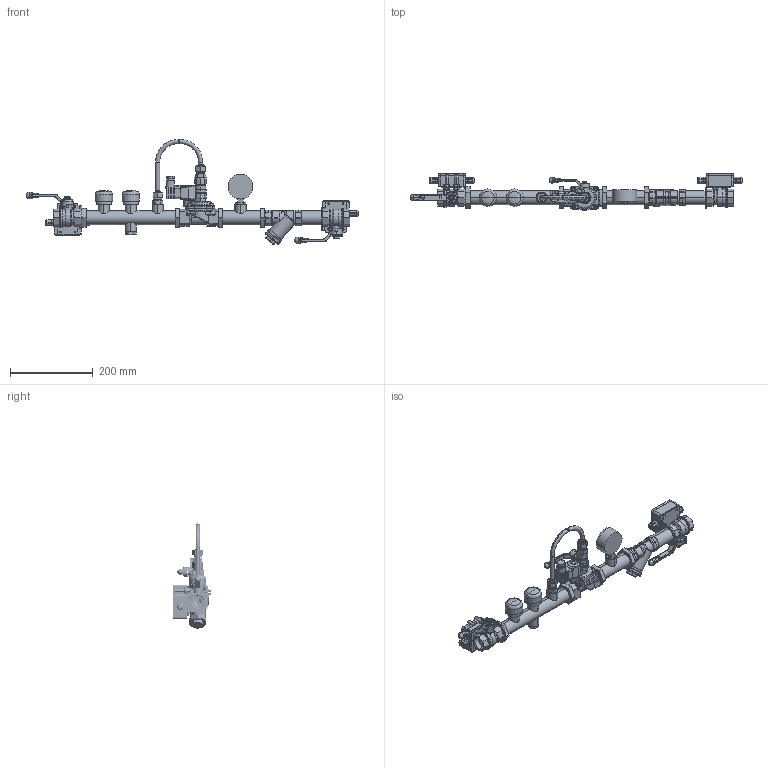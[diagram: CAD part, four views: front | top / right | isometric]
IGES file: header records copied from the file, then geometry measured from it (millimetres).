
Start section: File generated by T-FLEX CAD Version (null)
Global section: file name:                  DN 25 3D.igs; native system: T-FLEX CAD; date: 211014.091830; units: millimetre
Bounding box: 801.86 x 89.5 x 254.06 mm (x, y, z)
Volume: 946560.8 mm3; surface area: 459023.1 mm2
Topology: 110 solids, 126 shells, 4412 faces, 11021 edges, 6752 vertices
Faces by surface type: plane 1704, cylinder 1328, bspline 530, cone 516, revolution 247, sphere 87
